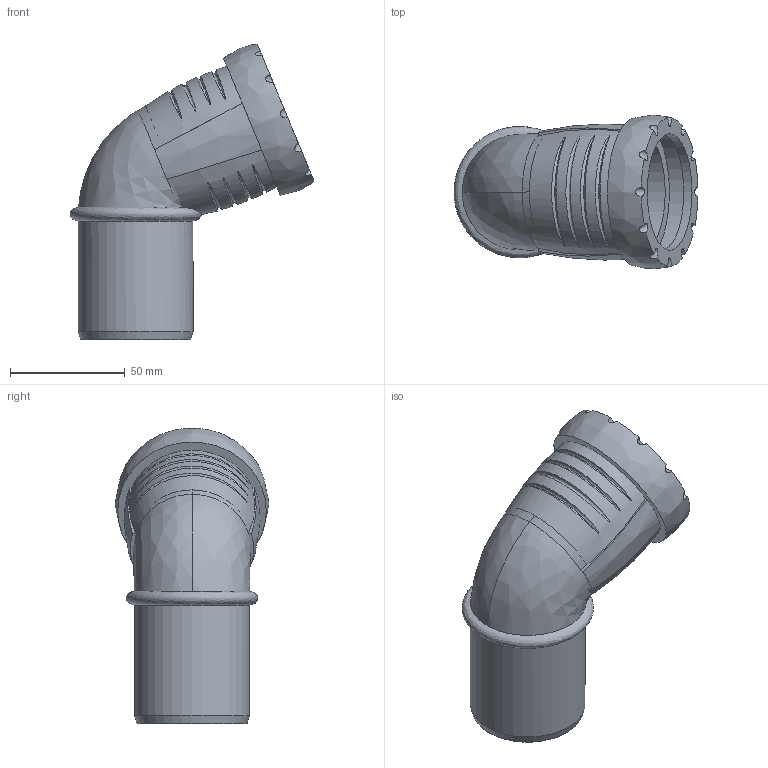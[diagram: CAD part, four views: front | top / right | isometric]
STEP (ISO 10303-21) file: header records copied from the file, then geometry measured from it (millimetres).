
FILE_DESCRIPTION(/* description */ (''),/* implementation_level */ '2;1');
FILE_NAME(/* name */ 'H:\Geberit-Teile\Export\Bogen_TEST\stp\393223.stp',/* time_stamp */ '2017-02-14T10:05:05+01:00',/* author */ ('seihe2'),/* organization */ (''),/* preprocessor_version */ 'ST-DEVELOPER v15.2',/* originating_system */ 'Autodesk Inventor 2014',/* authorisation */ '');
FILE_SCHEMA (('AUTOMOTIVE_DESIGN { 1 0 10303 214 3 1 1 }'));
Length unit declared in the file: millimetre
Products named in the file (1): 393223
Bounding box: 106.48 x 67.08 x 128.95 mm (x, y, z)
Volume: 130736.1 mm3; surface area: 51506.3 mm2
Topology: 2 solids, 2 shells, 56 faces, 139 edges, 98 vertices
Faces by surface type: bspline 27, cylinder 19, plane 8, cone 2
Full cylindrical faces by diameter (mm): 44.15 x1, 50.15 x1, 50.7 x1, 51 x1, 60.1 x1
Entity records: 4276 total; most frequent: CARTESIAN_POINT 3049, ORIENTED_EDGE 264, DIRECTION 180, EDGE_CURVE 131, VERTEX_POINT 97, AXIS2_PLACEMENT_3D 90, EDGE_LOOP 77, B_SPLINE_CURVE_WITH_KNOTS 70
